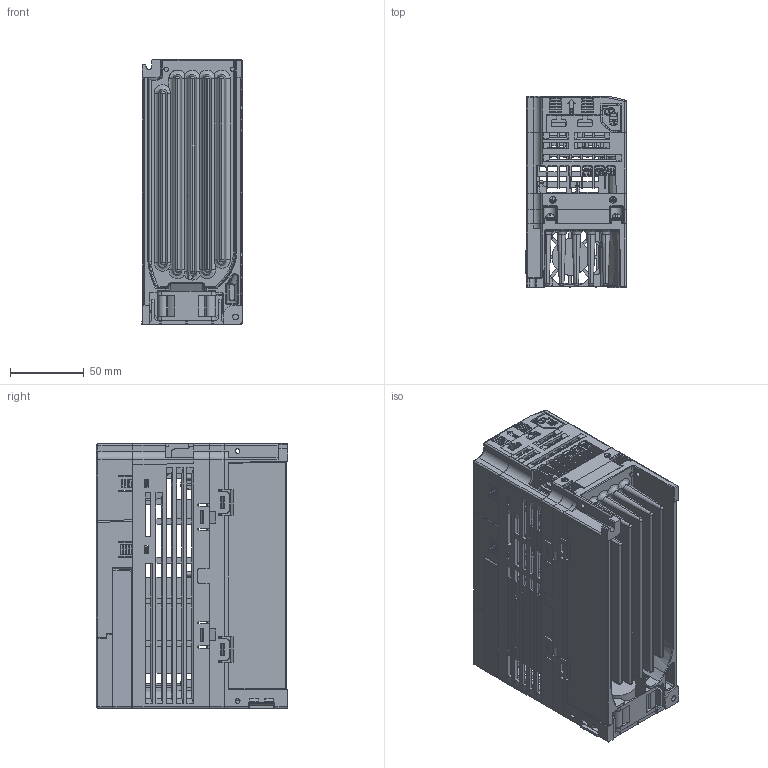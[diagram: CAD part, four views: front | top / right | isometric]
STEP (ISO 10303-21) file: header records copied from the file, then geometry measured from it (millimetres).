
FILE_DESCRIPTION (( 'STEP AP203' ), '1' );
FILE_NAME ('S100_004-008_IP20-EMV.STEP', '2020-03-30T10:34:56', ( '' ), ( '' ), 'SwSTEP 2.0', 'SolidWorks 2012', '' );
FILE_SCHEMA (( 'CONFIG_CONTROL_DESIGN' ));
Products named in the file (24): s100_eu_frame_a_asm_min; S100_004-008_IP20-EMV; VF8075720_V2_16; IG7-004-040_IO_KNOB_SCREW_3; 00_A_FRAME_ASSY_V15_ASM_114_ASM; VF8075718_38; S100_IO_COVER_150713_AF1_1; IG7-KEYPAD_ASSY-V7_110131_AF0_A_ASM; S100_IO_COVER_ASSY_150713_AF0_A_ASM; IG7_LOADER_ASSY_110322_ASM_3_ASM; IG7-KEYPAD_CASE-BUTTON_1108_AF0; IG7-IO_BASE_ASSY-V6_AF0_ASM_2_ASM; IG7-KEYPAD_SHEET-V3_2; VF8075717_27; IG7-IO_BASE-V6_AF0_2; A_FRAME_BASE_ASSY_V15__ASM_8_ASM; A_FRAME_BODY_ASSY_V15__ASM_5_ASM; MANIFOLD_SOLID_BREP_63882; SCREW_M3_8_3; S100_008_FAN-COVER_V1_5; FAN_40X40X20_3_ASM; MANIFOLD_SOLID_BREP_63793; VF8075719_V2_19; VF8075422_9
Assembly tree (24 placements, depth 6):
  S100_004-008_IP20-EMV
    s100_eu_frame_a_asm_min
      00_A_FRAME_ASSY_V15_ASM_114_ASM
        A_FRAME_BASE_ASSY_V15__ASM_8_ASM
          VF8075422_9
          VF8075719_V2_19
          FAN_40X40X20_3_ASM
            MANIFOLD_SOLID_BREP_63793
            MANIFOLD_SOLID_BREP_63882
          S100_008_FAN-COVER_V1_5
          SCREW_M3_8_3  x2
        A_FRAME_BODY_ASSY_V15__ASM_5_ASM
          VF8075717_27
        IG7_LOADER_ASSY_110322_ASM_3_ASM
          IG7-IO_BASE_ASSY-V6_AF0_ASM_2_ASM
            IG7-IO_BASE-V6_AF0_2
          IG7-KEYPAD_ASSY-V7_110131_AF0_A_ASM
            IG7-KEYPAD_SHEET-V3_2
            IG7-KEYPAD_CASE-BUTTON_1108_AF0
          S100_IO_COVER_ASSY_150713_AF0_A_ASM
            S100_IO_COVER_150713_AF1_1
        VF8075718_38
        VF8075720_V2_16
        IG7-004-040_IO_KNOB_SCREW_3
Bounding box: 68.4 x 130 x 180 mm (x, y, z)
Volume: 304811.9 mm3; surface area: 320119.3 mm2
Topology: 11 solids, 19 shells, 6858 faces, 19722 edges, 12929 vertices
Faces by surface type: plane 4904, cylinder 1306, bspline 351, cone 294, torus 3
Entity records: 258743 total; most frequent: CARTESIAN_POINT 87497, ORIENTED_EDGE 39114, DIRECTION 28682, EDGE_CURVE 19569, LINE 13416, VECTOR 13416, VERTEX_POINT 12876, AXIS2_PLACEMENT_3D 7633
